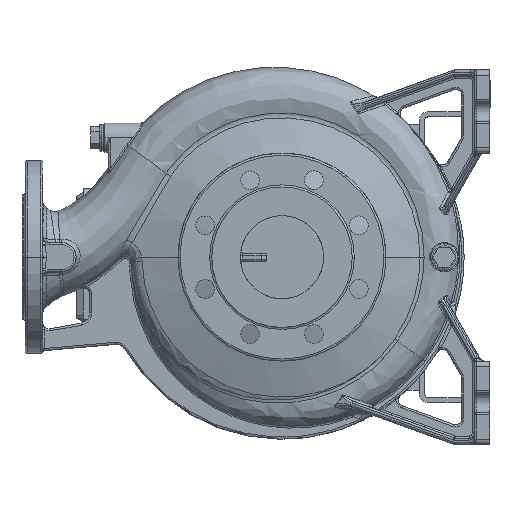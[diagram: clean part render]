
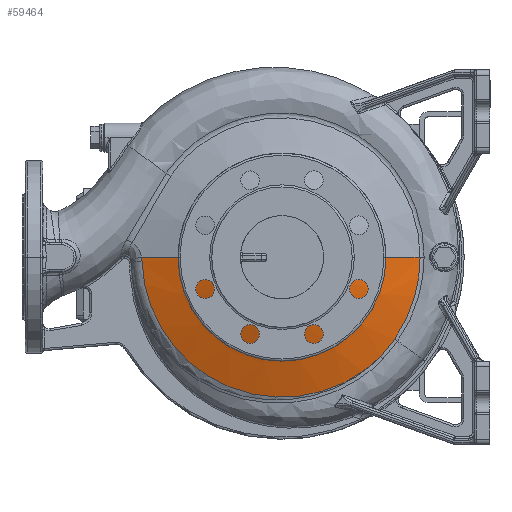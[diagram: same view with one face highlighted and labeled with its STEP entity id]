
A CAD part, front view. The second image highlights one B-rep face of the part: STEP entity #59464.
In plain terms, the highlighted conical face has half-angle 72 degrees and reference radius 103.164 mm.
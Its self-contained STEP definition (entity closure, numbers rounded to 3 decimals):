
#38460=CARTESIAN_POINT('',(-78.81,-108.317,
24.222));
#38461=CARTESIAN_POINT('',(-74.177,-111.494,
24.272));
#38462=CARTESIAN_POINT('',(-64.543,-117.285,
24.364));
#38463=CARTESIAN_POINT('',(-49.126,-124.188,
24.467));
#38464=CARTESIAN_POINT('',(-33.093,-129.161,
24.537));
#38465=CARTESIAN_POINT('',(-16.608,-132.145,
24.585));
#38466=CARTESIAN_POINT('',(-5.528,-132.783,
24.602));
#38467=CARTESIAN_POINT('',(0.,-132.77,
24.606));
#38472=CARTESIAN_POINT('',(-95.541,-94.861,
24.));
#38473=CARTESIAN_POINT('',(-92.923,-97.331,
24.038));
#38474=CARTESIAN_POINT('',(-87.505,-102.052,
24.113));
#38475=CARTESIAN_POINT('',(-81.756,-106.311,
24.185));
#38476=CARTESIAN_POINT('',(-78.81,-108.317,
24.222));
#38481=CARTESIAN_POINT('',(0.,0.,24.));
#38482=DIRECTION('',(0.,0.,-1.));
#38483=DIRECTION('',(-0.71,-0.705,0.));
#38484=AXIS2_PLACEMENT_3D('',#38481,#38482,#38483);
#38489=CARTESIAN_POINT('',(-3.977,134.576,
24.));
#38490=CARTESIAN_POINT('',(-3.294,134.597,
24.));
#38491=CARTESIAN_POINT('',(-1.949,134.691,
23.979));
#38492=CARTESIAN_POINT('',(-0.644,134.886,
23.919));
#38493=CARTESIAN_POINT('',(0.,135.009,
23.879));
#38498=DIRECTION('',(0.,-0.951,0.309));
#38499=VECTOR('',#38498,66.966);
#38500=CARTESIAN_POINT('',(0.,135.009,
23.879));
#38501=LINE('',#38500,#38499);
#38505=CARTESIAN_POINT('',(0.,0.,44.573));
#38506=DIRECTION('',(0.,0.,-1.));
#38507=DIRECTION('',(0.,-1.,0.));
#38508=AXIS2_PLACEMENT_3D('',#38505,#38506,#38507);
#38513=DIRECTION('',(0.,0.951,0.309));
#38514=VECTOR('',#38513,64.613);
#38515=CARTESIAN_POINT('',(0.,-132.77,
24.606));
#38516=LINE('',#38515,#38514);
#38520=CARTESIAN_POINT('',(0.,-132.77,
24.606));
#41983=CARTESIAN_POINT('',(0.,-71.32,
44.573));
#41984=CARTESIAN_POINT('',(0.,71.32,44.573));
#41985=VERTEX_POINT('',#41983);
#41986=VERTEX_POINT('',#41984);
#41987=CARTESIAN_POINT('',(0.,135.009,
23.879));
#41988=VERTEX_POINT('',#41987);
#41991=VERTEX_POINT('',#38520);
#41996=VERTEX_POINT('',#38460);
#42316=VERTEX_POINT('',#38472);
#42321=CARTESIAN_POINT('',(-3.977,134.577,
24.));
#42322=VERTEX_POINT('',#42321);
#59447=CARTESIAN_POINT('',(0.,0.,34.226));
#59448=DIRECTION('',(0.,0.,-1.));
#59449=DIRECTION('',(0.,-1.,0.));
#59450=AXIS2_PLACEMENT_3D('',#59447,#59448,#59449);
#59451=CONICAL_SURFACE('',#59450,103.164,72.);
#59452=ORIENTED_EDGE('',*,*,#47576,.F.);
#59453=ORIENTED_EDGE('',*,*,#47608,.F.);
#59454=ORIENTED_EDGE('',*,*,#59325,.T.);
#59455=ORIENTED_EDGE('',*,*,#59441,.T.);
#59457=ORIENTED_EDGE('',*,*,#59456,.T.);
#59459=ORIENTED_EDGE('',*,*,#59458,.F.);
#59461=ORIENTED_EDGE('',*,*,#59460,.F.);
#59462=EDGE_LOOP('',(#59452,#59453,#59454,#59455,#59457,#59459,#59461));
#59463=FACE_OUTER_BOUND('',#59462,.F.);
#38468=B_SPLINE_CURVE_WITH_KNOTS('',3,(#38460,#38461,#38462,#38463,#38464,
#38465,#38466,#38467),.UNSPECIFIED.,.F.,.F.,(4,1,1,1,1,4),(0.,0.2,0.4,
0.6,0.8,1.),.UNSPECIFIED.);
#38477=B_SPLINE_CURVE_WITH_KNOTS('',3,(#38472,#38473,#38474,#38475,#38476),
.UNSPECIFIED.,.F.,.F.,(4,1,4),(0.,0.5,1.),.UNSPECIFIED.);
#38485=CIRCLE('',#38484,134.635);
#38494=B_SPLINE_CURVE_WITH_KNOTS('',3,(#38489,#38490,#38491,#38492,#38493),
.UNSPECIFIED.,.F.,.F.,(4,1,4),(0.,0.5,1.),.UNSPECIFIED.);
#38509=CIRCLE('',#38508,71.32);
#47576=EDGE_CURVE('',#41996,#41991,#38468,.T.);
#47608=EDGE_CURVE('',#42316,#41996,#38477,.T.);
#59325=EDGE_CURVE('',#42316,#42322,#38485,.T.);
#59441=EDGE_CURVE('',#42322,#41988,#38494,.T.);
#59456=EDGE_CURVE('',#41988,#41986,#38501,.T.);
#59458=EDGE_CURVE('',#41985,#41986,#38509,.T.);
#59460=EDGE_CURVE('',#41991,#41985,#38516,.T.);
#59464=ADVANCED_FACE('',(#59463),#59451,.T.);
